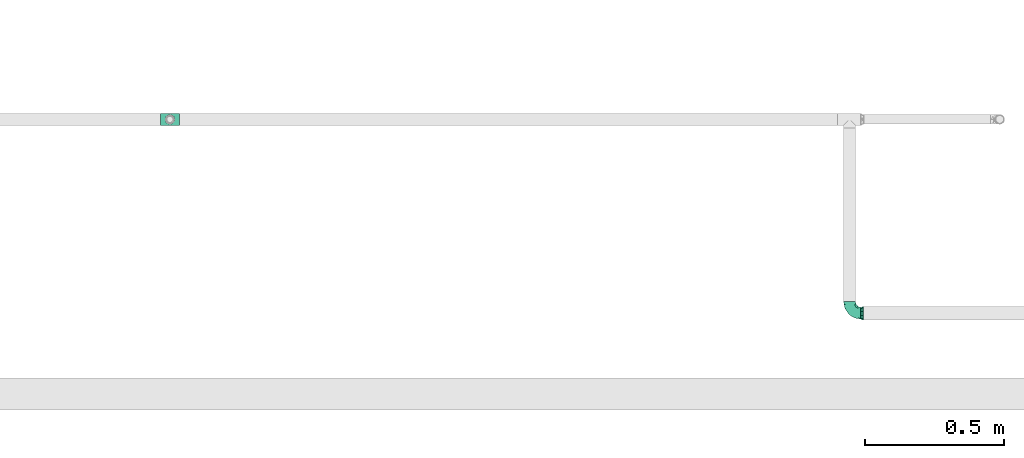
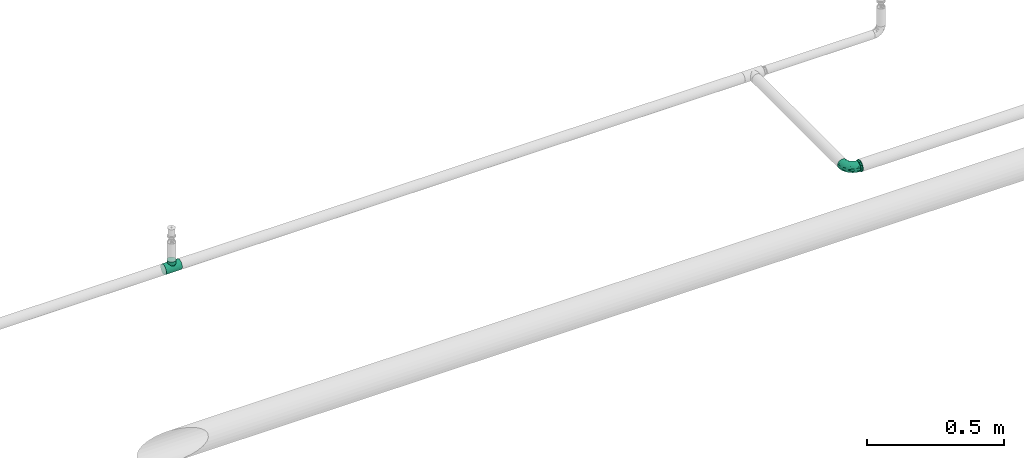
# One storey, part 31 of 94: 3 flow fittings.
"""IFC2X3 building model written with IfcOpenShell, lengths in millimetres."""

from ifc_helpers import new_model, entity, si_unit, converted_unit, derived_unit, direction, frame, origin_with_axes, place, context, subcontext, project, spatial, open_shell, surface_model, source, transform, mapped, type_object, element, save


model = new_model("IFC2X3")

# Units and contexts
model_context = context("Model", 3, precision=0.01, world=frame((0.0, 4.29681676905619e-09, 0.0)), true_north=direction((4.01073788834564e-13, 1.0)))
plan_context = context("Plan", 3, precision=0.01, world=frame((0.0, 4.29681676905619e-09, 0.0)), true_north=direction((4.01073788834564e-13, 1.0)))
body_context = subcontext(model_context, "Body", "Model", "MODEL_VIEW")
ifc_project = project(units=[converted_unit("PLANEANGLEUNIT", "DEGREE", entity("IfcPositiveLengthMeasure", 0.0174532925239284), si_unit("PLANEANGLEUNIT", "RADIAN"), dimensions=[0, 0, 0, 0, 0, 0, 0]), si_unit("AREAUNIT", "SQUARE_METRE"), si_unit("LENGTHUNIT", "METRE", prefix="MILLI"), si_unit("MASSUNIT", "GRAM", prefix="KILO"), si_unit("POWERUNIT", "WATT"), si_unit("PRESSUREUNIT", "PASCAL"), si_unit("FORCEUNIT", "NEWTON", prefix="KILO"), si_unit("ELECTRICCURRENTUNIT", "AMPERE"), si_unit("THERMODYNAMICTEMPERATUREUNIT", "DEGREE_CELSIUS"), si_unit("TIMEUNIT", "SECOND"), si_unit("VOLUMEUNIT", "CUBIC_METRE"), derived_unit("LINEARVELOCITYUNIT", [(si_unit("LENGTHUNIT", "METRE"), 1), (si_unit("TIMEUNIT", "SECOND"), -1)]), derived_unit("VOLUMETRICFLOWRATEUNIT", [(si_unit("VOLUMEUNIT", "CUBIC_METRE"), 1), (si_unit("TIMEUNIT", "SECOND"), -1)]), derived_unit("THERMALTRANSMITTANCEUNIT", [(si_unit("POWERUNIT", "WATT"), 1), (si_unit("THERMODYNAMICTEMPERATUREUNIT", "KELVIN"), -1), (si_unit("AREAUNIT", "SQUARE_METRE"), -1)])], contexts=[model_context, plan_context])

# Site, building, storey
site_placement = place(None, frame((0.0, -4.29681676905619e-09, 0.0), z_axis=(0.0, 0.0, 1.0), x_axis=(1.0, 0.0, 0.0)))
site = spatial("IfcSite", under=ifc_project, at=site_placement, CompositionType="ELEMENT")
building_placement = place(site_placement, frame((0.0, 4.29681676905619e-09, 0.0), z_axis=(0.0, 0.0, 1.0), x_axis=(1.0, 0.0, 0.0)))
building = spatial("IfcBuilding", under=site, at=building_placement, Name="mc-building", CompositionType="ELEMENT")
storey_placement = place(building_placement, frame((0.0, 0.0, 200300.0), z_axis=(0.0, 0.0, 1.0), x_axis=(1.0, 0.0, 0.0)))
storey = spatial("IfcBuildingStorey", under=building, at=storey_placement, Name="Nivå C", CompositionType="ELEMENT", Elevation=200300.0)

# Flow fittings
pipe_fitting_type_1 = type_object("IfcPipeFittingType", Name="magi_pipe_fe_elbow_short_001", PredefinedType="BEND")
shared_shape_1 = source(origin_with_axes(), body_context, "Body", "SurfaceModel", [
    surface_model("IfcShellBasedSurfaceModel", [(-42.4, 10.6, -18.35974), (-42.4, 5.48696, -20.47763), (-42.4, 0.0, -21.2), (-42.4, 14.99066, -14.99066), (-42.4, 20.47763, -5.48696), (-42.4, 18.35974, -10.6), (-42.4, -14.99066, 14.99066), (-42.4, -21.2, 0.0), (-42.4, -10.6, -18.35974), (-42.4, -14.99066, -14.99066), (-42.4, -5.48696, -20.47763), (-42.4, -18.35974, -10.6), (-42.4, -20.47763, -5.48696), (-42.4, 10.6, 18.35974), (-42.4, 20.47763, 5.48696), (-42.4, 18.35974, 10.6), (-42.4, 14.99066, 14.99066), (-42.4, 5.48696, 20.47763), (-42.4, 0.0, 21.2), (-42.4, -20.47763, 5.48696), (-42.4, -18.35974, 10.6), (-42.4, -10.6, 18.35974), (-42.4, -5.48696, 20.47763), (-42.4, 21.2, 0.0), (0.0, 42.4, -21.2), (-5.48696, 42.4, -20.47763), (-10.6, 42.4, -18.35974), (-14.99066, 42.4, -14.99066), (-18.35974, 42.4, -10.6), (-20.47763, 42.4, -5.48696), (21.2, 42.4, 0.0), (5.48696, 42.4, -20.47763), (14.99066, 42.4, -14.99066), (10.6, 42.4, -18.35974), (18.35974, 42.4, -10.6), (20.47763, 42.4, -5.48696), (14.99066, 42.4, 14.99066), (-20.47763, 42.4, 5.48696), (-10.6, 42.4, 18.35974), (-14.99066, 42.4, 14.99066), (-18.35974, 42.4, 10.6), (-5.48696, 42.4, 20.47763), (0.0, 42.4, 21.2), (18.35974, 42.4, 10.6), (20.47763, 42.4, 5.48696), (5.48696, 42.4, 20.47763), (10.6, 42.4, 18.35974), (-21.2, 42.4, 0.0), (-31.10239, -16.47009, 11.90111), (-27.83957, -12.231, 15.79732), (-30.23067, -18.77937, 0.0), (-18.74048, -13.50096, 10.69998), (-28.17586, -18.50359, 6.61185), (18.50359, 28.17586, 6.61185), (14.95929, 16.60735, 5.43468), (16.35874, 18.06133, 0.0), (-20.72313, 33.83635, 9.21426), (-17.70981, 33.00599, 13.92769), (-31.16033, -8.01664, 19.07348), (-32.38682, -2.80842, 20.83743), (-29.68688, 3.24967, 21.16387), (-7.74467, -9.46536, 0.0), (-16.60735, -14.95929, 5.43468), (-18.06133, -16.35874, 0.0), (-16.37932, -5.14532, 17.61254), (-21.10659, -0.19025, 20.54817), (-1.82445, -3.58377, 9.55223), (-0.35533, 0.43745, 12.66367), (-7.20655, -5.07682, 13.06146), (-33.14056, 17.6728, 13.91288), (-7.36799, 20.84806, 21.16196), (-15.70315, 15.70315, 20.68489), (-12.62356, 9.26422, 21.0908), (-36.67879, 12.83836, 17.27427), (-7.91358, 36.5686, 19.85759), (-2.90555, 31.71221, 21.14793), (-33.84689, 20.71971, 9.21285), (-33.51649, 22.58113, 4.66115), (-26.3226, 26.3226, 7.92474), (-32.67995, 8.31454, 20.02643), (-5.53379, 14.19921, 20.81623), (-10.53385, 3.88918, 19.79653), (-2.16577, 11.45378, 19.48254), (-3.78693, 3.78693, 17.3328), (12.231, 27.83957, 15.79732), (13.50096, 18.74047, 10.69998), (16.47009, 31.10239, 11.90111), (-22.53806, 14.38475, 19.60876), (-23.29615, 9.08095, 20.82061), (2.80842, 32.38682, 20.83743), (8.01664, 31.16033, 19.07348), (5.14532, 16.37932, 17.61254), (18.77937, 30.23067, 0.0), (-20.80278, 5.19491, 21.19095), (-19.62579, 22.38752, 17.42006), (-29.19336, 14.39093, 17.85259), (-22.31569, 34.20044, 4.54807), (-26.56962, 27.80621, 3.73106), (9.67657, 17.17133, 14.49993), (-24.04026, 31.8, 0.0), (-9.16861, 28.72652, 20.19004), (-12.09761, 21.9456, 20.37969), (-15.36991, 27.40112, 17.818), (-16.88976, 20.52477, 19.2896), (-12.95169, 35.54896, 17.36222), (-17.17133, -9.67657, 14.49993), (-21.98655, 28.10245, 11.99898), (-22.34699, 23.67592, 15.01692), (-27.22822, 22.77969, 11.82161), (0.19025, 21.10658, 20.54817), (4.8276, 7.36347, 13.42842), (-10.06209, -9.46364, 9.95114), (1.25876, -2.7536, 5.73797), (6.43781, 3.77591, 7.40371), (6.57528, 2.20066, 3.17705), (10.91934, 8.84313, 5.00748), (10.64415, 10.99764, 8.89767), (-31.8, 24.04026, 0.0), (-5.71381, -8.43063, 6.15529), (2.57199, -2.57199, 0.0), (9.46536, 7.74467, 0.0), (-17.17133, -9.67657, -14.49993), (-27.83957, -12.231, -15.79732), (-16.37932, -5.14532, -17.61254), (-18.74048, -13.50096, -10.69998), (-33.00599, 17.70981, -13.92769), (-35.54896, 12.95169, -17.36222), (-34.20044, 22.31569, -4.54807), (-28.17586, -18.50359, -6.61185), (-26.3226, 26.3226, -7.92474), (-33.83635, 20.72313, -9.21426), (-16.60735, -14.95929, -5.43468), (-20.52477, 16.88976, -19.2896), (-21.9456, 12.0976, -20.37969), (-27.40112, 15.36991, -17.818), (-12.83836, 36.67879, -17.27427), (-17.6728, 33.14056, -13.91288), (8.01664, 31.16033, -19.07348), (5.14532, 16.37932, -17.61254), (0.19025, 21.10658, -20.54817), (-36.5686, 7.91358, -19.85759), (-31.10239, -16.47009, -11.90111), (-31.16033, -8.01664, -19.07348), (-14.38475, 22.53806, -19.60876), (-8.31454, 32.67995, -20.02643), (-9.08095, 23.29615, -20.82061), (-32.38682, -2.80842, -20.83743), (-20.84806, 7.36799, -21.16196), (-15.70315, 15.70314, -20.68489), (-9.26422, 12.62356, -21.0908), (-31.71221, 2.90555, -21.14793), (-22.58113, 33.51649, -4.66115), (-20.71971, 33.84689, -9.21285), (-28.72652, 9.16861, -20.19004), (-27.80621, 26.56962, -3.73106), (-5.19491, 20.80278, -21.19095), (-22.38752, 19.62579, -17.42006), (-14.39093, 29.19336, -17.85259), (2.80842, 32.38682, -20.83743), (-3.24967, 29.68688, -21.16387), (16.47009, 31.10239, -11.90111), (12.231, 27.83957, -15.79732), (6.57528, 2.20067, -3.17705), (10.91934, 8.84313, -5.00749), (-14.19921, 5.53379, -20.81623), (-3.88918, 10.53385, -19.79653), (-11.45378, 2.16577, -19.48254), (1.25876, -2.7536, -5.73797), (-5.71381, -8.43063, -6.15529), (-1.82445, -3.58377, -9.55223), (13.50096, 18.74048, -10.69998), (18.50359, 28.17586, -6.61185), (14.95929, 16.60735, -5.43468), (-28.10245, 21.98655, -11.99898), (9.67657, 17.17133, -14.49993), (10.64415, 10.99764, -8.89767), (4.8276, 7.36347, -13.42842), (-23.67592, 22.34699, -15.01692), (-22.77969, 27.22822, -11.82161), (-21.10658, -0.19025, -20.54817), (-3.78693, 3.78693, -17.3328), (-7.20655, -5.07682, -13.06146), (-10.06209, -9.46364, -9.95113), (-0.35533, 0.43745, -12.66367), (6.43781, 3.77591, -7.40371)], [open_shell([[[0, 1, 2]], [[3, 0, 2]], [[4, 5, 3]], [[2, 4, 3]], [[6, 2, 7]], [[8, 9, 10]], [[11, 10, 9]], [[12, 7, 11]], [[2, 10, 11]], [[11, 7, 2]], [[6, 4, 2]], [[13, 14, 4]], [[15, 14, 16]], [[4, 6, 13]], [[16, 14, 13]], [[17, 13, 18]], [[19, 20, 7]], [[7, 20, 6]], [[21, 22, 6]], [[18, 6, 22]], [[6, 18, 13]], [[23, 4, 14]], [[24, 25, 26]], [[24, 26, 27]], [[27, 28, 29]], [[27, 29, 24]], [[24, 29, 30]], [[31, 32, 33]], [[31, 24, 32]], [[34, 30, 35]], [[32, 24, 34]], [[24, 30, 34]], [[29, 36, 30]], [[29, 37, 38]], [[39, 37, 40]], [[36, 29, 38]], [[38, 37, 39]], [[41, 42, 38]], [[30, 43, 44]], [[36, 43, 30]], [[36, 45, 46]], [[45, 36, 42]], [[38, 42, 36]], [[37, 29, 47]], [[6, 48, 49]], [[19, 7, 50]], [[51, 48, 52]], [[53, 54, 55]], [[48, 6, 20]], [[19, 52, 20]], [[40, 56, 57]], [[49, 21, 6]], [[49, 58, 21]], [[18, 59, 60]], [[61, 62, 63]], [[58, 64, 65]], [[66, 67, 68]], [[15, 16, 69]], [[70, 71, 72]], [[13, 73, 16]], [[22, 59, 18]], [[41, 74, 75]], [[18, 60, 17]], [[15, 69, 76]], [[16, 73, 69]], [[23, 14, 77]], [[14, 15, 76]], [[77, 76, 78]], [[17, 79, 13]], [[80, 81, 82]], [[68, 83, 64]], [[84, 36, 46]], [[85, 86, 84]], [[87, 79, 88]], [[21, 58, 22]], [[42, 89, 45]], [[53, 44, 43]], [[42, 41, 75]], [[84, 90, 91]], [[43, 86, 53]], [[92, 44, 53]], [[86, 43, 36]], [[90, 46, 45]], [[53, 55, 92]], [[88, 93, 72]], [[54, 53, 85]], [[87, 94, 95]], [[78, 96, 97]], [[98, 84, 91]], [[99, 96, 47]], [[79, 17, 60]], [[96, 78, 56]], [[62, 52, 63]], [[57, 39, 40]], [[100, 70, 75]], [[101, 102, 103]], [[19, 50, 52]], [[104, 38, 39]], [[74, 41, 38]], [[57, 102, 104]], [[105, 64, 49]], [[90, 84, 46]], [[40, 37, 56]], [[56, 106, 57]], [[102, 57, 107]], [[95, 107, 69]], [[76, 108, 78]], [[100, 101, 70]], [[89, 75, 109]], [[64, 58, 49]], [[63, 52, 50]], [[59, 58, 65]], [[105, 49, 51]], [[64, 83, 81]], [[89, 90, 45]], [[30, 44, 92]], [[109, 82, 91]], [[109, 91, 90]], [[91, 83, 110]], [[111, 68, 105]], [[66, 68, 111]], [[62, 51, 52]], [[66, 112, 113]], [[114, 115, 113]], [[98, 85, 84]], [[52, 48, 20]], [[49, 48, 51]], [[84, 86, 36]], [[53, 86, 85]], [[88, 79, 60]], [[73, 79, 95]], [[96, 56, 37]], [[78, 108, 106]], [[87, 103, 94]], [[100, 74, 104]], [[108, 69, 107]], [[78, 97, 77]], [[88, 72, 71]], [[109, 75, 70]], [[81, 72, 65]], [[70, 72, 80]], [[75, 89, 42]], [[90, 89, 109]], [[58, 59, 22]], [[60, 59, 65]], [[67, 83, 68]], [[110, 113, 116]], [[88, 60, 93]], [[87, 88, 71]], [[103, 87, 71]], [[79, 87, 95]], [[101, 103, 71]], [[94, 103, 102]], [[47, 96, 37]], [[96, 99, 97]], [[99, 117, 97]], [[97, 117, 77]], [[23, 77, 117]], [[14, 76, 77]], [[60, 65, 93]], [[65, 72, 93]], [[70, 101, 71]], [[102, 101, 100]], [[69, 108, 76]], [[106, 108, 107]], [[57, 106, 107]], [[78, 106, 56]], [[57, 104, 39]], [[100, 104, 102]], [[102, 107, 94]], [[95, 94, 107]], [[64, 81, 65]], [[82, 81, 83]], [[91, 82, 83]], [[80, 82, 109]], [[70, 80, 109]], [[81, 80, 72]], [[79, 73, 13]], [[69, 73, 95]], [[104, 74, 38]], [[75, 74, 100]], [[62, 61, 118]], [[111, 62, 118]], [[113, 115, 116]], [[119, 118, 61]], [[111, 105, 51]], [[113, 112, 114]], [[120, 55, 54]], [[68, 64, 105]], [[91, 110, 98]], [[116, 98, 110]], [[62, 111, 51]], [[66, 111, 118]], [[112, 66, 118]], [[67, 113, 110]], [[118, 119, 112]], [[114, 112, 119]], [[119, 120, 114]], [[115, 120, 54]], [[120, 115, 114]], [[116, 54, 85]], [[54, 116, 115]], [[116, 85, 98]], [[113, 67, 66]], [[83, 67, 110]], [[121, 122, 123]], [[122, 121, 124]], [[5, 125, 3]], [[3, 126, 0]], [[117, 127, 23]], [[50, 12, 128]], [[127, 129, 130]], [[128, 131, 63]], [[132, 133, 134]], [[27, 135, 136]], [[137, 138, 139]], [[0, 140, 1]], [[128, 11, 141]], [[142, 8, 10]], [[128, 63, 50]], [[5, 4, 130]], [[11, 9, 141]], [[143, 144, 145]], [[146, 10, 2]], [[147, 148, 149]], [[11, 128, 12]], [[124, 141, 122]], [[150, 2, 1]], [[151, 152, 129]], [[125, 134, 126]], [[153, 147, 150]], [[127, 154, 129]], [[145, 155, 149]], [[47, 29, 151]], [[143, 156, 157]], [[152, 29, 28]], [[24, 158, 159]], [[122, 9, 8]], [[27, 26, 135]], [[144, 26, 25]], [[32, 160, 161]], [[24, 31, 158]], [[120, 162, 163]], [[130, 125, 5]], [[27, 136, 28]], [[1, 140, 150]], [[33, 161, 137]], [[142, 122, 8]], [[24, 159, 25]], [[164, 165, 166]], [[167, 168, 169]], [[34, 160, 32]], [[161, 33, 32]], [[170, 160, 171]], [[131, 128, 124]], [[30, 92, 35]], [[35, 92, 171]], [[172, 171, 55]], [[35, 171, 34]], [[144, 25, 159]], [[130, 173, 125]], [[174, 175, 176]], [[136, 152, 28]], [[33, 137, 31]], [[122, 142, 123]], [[134, 125, 177]], [[157, 177, 136]], [[152, 178, 129]], [[153, 133, 147]], [[146, 150, 179]], [[146, 142, 10]], [[7, 12, 50]], [[179, 166, 123]], [[179, 123, 142]], [[123, 180, 181]], [[138, 137, 161]], [[55, 171, 92]], [[158, 137, 139]], [[174, 161, 170]], [[138, 180, 165]], [[180, 138, 176]], [[124, 121, 182]], [[176, 183, 180]], [[61, 131, 168]], [[169, 168, 182]], [[172, 170, 171]], [[122, 141, 9]], [[128, 141, 124]], [[171, 160, 34]], [[161, 160, 170]], [[145, 144, 159]], [[135, 144, 157]], [[127, 130, 4]], [[129, 178, 173]], [[143, 132, 156]], [[153, 140, 126]], [[178, 136, 177]], [[129, 154, 151]], [[145, 149, 148]], [[179, 150, 147]], [[165, 149, 139]], [[147, 149, 164]], [[150, 146, 2]], [[142, 146, 179]], [[137, 158, 31]], [[159, 158, 139]], [[174, 138, 161]], [[184, 169, 183]], [[145, 159, 155]], [[143, 145, 148]], [[132, 143, 148]], [[144, 143, 157]], [[133, 132, 148]], [[156, 132, 134]], [[23, 127, 4]], [[127, 117, 154]], [[117, 99, 154]], [[154, 99, 151]], [[47, 151, 99]], [[29, 152, 151]], [[159, 139, 155]], [[139, 149, 155]], [[147, 133, 148]], [[134, 133, 153]], [[136, 178, 152]], [[173, 178, 177]], [[125, 173, 177]], [[129, 173, 130]], [[125, 126, 3]], [[153, 126, 134]], [[134, 177, 156]], [[157, 156, 177]], [[138, 165, 139]], [[166, 165, 180]], [[123, 166, 180]], [[164, 166, 179]], [[147, 164, 179]], [[165, 164, 149]], [[144, 135, 26]], [[136, 135, 157]], [[126, 140, 0]], [[150, 140, 153]], [[182, 131, 124]], [[168, 119, 61]], [[119, 167, 162]], [[63, 131, 61]], [[172, 163, 175]], [[172, 55, 120]], [[123, 181, 121]], [[182, 121, 181]], [[175, 174, 170]], [[176, 138, 174]], [[169, 182, 181]], [[131, 182, 168]], [[183, 169, 181]], [[167, 169, 184]], [[162, 167, 184]], [[119, 168, 167]], [[163, 162, 184]], [[120, 119, 162]], [[175, 163, 184]], [[120, 163, 172]], [[176, 175, 184]], [[172, 175, 170]], [[180, 183, 181]], [[184, 183, 176]]])]),
])
flow_fitting_1_placement = place(storey_placement, frame((529961.18385, 406303.74497, 2850.0), z_axis=(0.0, 0.0, 1.0), x_axis=(0.0, -1.0, 0.0)))
element("IfcFlowFitting", 1, at=flow_fitting_1_placement, inside=storey, type_object=pipe_fitting_type_1, Name="magi_pipe_fe_elbow_short_001", context=body_context, shape_type="MappedRepresentation", body=[
    mapped(shared_shape_1, transform((0.0, 0.0, 0.0), scale=1.0)),
])
pipe_fitting_type_2 = type_object("IfcPipeFittingType", Name="magi_pipe_fe_reducer_centric_short_NOR", PredefinedType="TRANSITION")
shared_shape_2 = source(origin_with_axes(), body_context, "Body", "SurfaceModel", [
    surface_model("IfcShellBasedSurfaceModel", [(-2.0, -10.6, -18.35974), (-2.0, 0.0, -21.2), (-2.0, -5.48696, -20.47763), (-2.0, 5.48696, -20.47763), (-2.0, 10.6, -18.35974), (-2.0, 0.0, 21.2), (-2.0, 5.48696, 20.47763), (-2.0, 10.6, 18.35974), (-2.0, 14.99066, 14.99066), (-2.0, 18.35974, 10.6), (-2.0, 20.47763, 5.48696), (-2.0, -21.2, 0.0), (-2.0, -14.99066, -14.99066), (-2.0, -5.48696, 20.47763), (-2.0, -14.99066, 14.99066), (-2.0, -10.6, 18.35974), (-2.0, -18.35974, 10.6), (-2.0, -20.47763, 5.48696), (-2.0, 20.47763, -5.48696), (-2.0, 14.99066, -14.99066), (-2.0, 18.35974, -10.6), (-2.0, -18.35974, -10.6), (-2.0, -20.47763, -5.48696), (-2.0, 21.2, 0.0), (0.0, 10.6, -18.35974), (0.0, 0.0, -21.2), (0.0, 5.48696, -20.47763), (0.0, 20.47763, -5.48696), (0.0, 14.99066, -14.99066), (0.0, -21.2, 0.0), (0.0, -14.99066, -14.99066), (0.0, 18.35974, -10.6), (0.0, -10.6, -18.35974), (0.0, -5.48696, -20.47763), (0.0, -18.35974, -10.6), (0.0, -20.47763, -5.48696), (0.0, -18.35974, 10.6), (0.0, 21.2, 0.0), (0.0, 20.47763, 5.48696), (0.0, 18.35974, 10.6), (0.0, 14.99066, 14.99066), (0.0, 0.0, 21.2), (0.0, 10.6, 18.35974), (0.0, 5.48696, 20.47763), (0.0, -14.99066, 14.99066), (0.0, -20.47763, 5.48696), (0.0, -5.48696, 20.47763), (0.0, -10.6, 18.35974), (8.0, 24.2, 0.0), (8.0, 6.26342, -23.37541), (8.0, 12.1, -20.95781), (8.0, 23.37541, -6.26342), (8.0, 17.11198, -17.11198), (8.0, 20.95781, -12.1), (8.0, -24.2, 0.0), (8.0, -12.1, -20.95781), (8.0, -6.26342, -23.37541), (8.0, 0.0, -24.2), (8.0, -17.11198, -17.11198), (8.0, -23.37541, -6.26342), (8.0, -20.95781, -12.1), (8.0, 20.95781, 12.1), (8.0, 17.11198, 17.11198), (8.0, 12.1, 20.95781), (8.0, 6.26342, 23.37541), (8.0, 0.0, 24.2), (8.0, -23.37541, 6.26342), (8.0, -17.11198, 17.11198), (8.0, -20.95781, 12.1), (8.0, -6.26342, 23.37541), (8.0, -12.1, 20.95781), (8.0, 23.37541, 6.26342), (6.0, 0.0, 24.2), (6.0, 6.26342, 23.37541), (6.0, 12.1, 20.95781), (6.0, 17.11198, 17.11198), (6.0, 6.26342, -23.37541), (6.0, 20.95781, 12.1), (6.0, -23.37541, 6.26342), (6.0, -17.11198, -17.11198), (6.0, -6.26342, 23.37541), (6.0, -17.11198, 17.11198), (6.0, -12.1, 20.95781), (6.0, -20.95781, 12.1), (6.0, -24.2, 0.0), (6.0, 23.37541, 6.26342), (6.0, 24.2, 0.0), (6.0, 23.37541, -6.26342), (6.0, 17.11198, -17.11198), (6.0, 20.95781, -12.1), (6.0, 12.1, -20.95781), (6.0, -23.37541, -6.26342), (6.0, -20.95781, -12.1), (6.0, -6.26342, -23.37541), (6.0, -12.1, -20.95781), (6.0, 0.0, -24.2), (6.0, 7.47821, 23.01557), (6.0, -7.47821, 23.01557), (6.0, 19.57821, 14.2244), (6.0, 19.57821, -14.2244), (6.0, -19.57821, 14.2244), (6.0, -19.57821, -14.2244), (6.0, 7.47821, -23.01557), (6.0, -7.47821, -23.01557), (0.0, -6.55116, 20.1624), (0.0, 6.55116, 20.1624), (0.0, -17.15116, 12.46105), (0.0, -17.15116, -12.46105), (0.0, 17.15116, 12.46105), (0.0, 17.15116, -12.46105), (0.0, -6.55116, -20.1624), (0.0, 6.55116, -20.1624), (6.0, -21.8891, -7.1122), (0.0, -19.17558, -6.23052), (0.0, -11.85116, -16.31172), (6.0, -13.52821, -18.61999), (6.0, 0.0, -23.01557), (0.0, 0.0, -20.1624), (0.0, 18.43768, -8.50153), (0.0, 19.72421, -4.54202), (6.0, 21.8891, -7.1122), (6.0, 13.52821, -18.61999), (0.0, 11.85116, -16.31172), (6.0, 21.8891, 7.1122), (0.0, 19.17558, 6.23052), (0.0, 11.85116, 16.31172), (6.0, 13.52821, 18.61999), (6.0, 0.0, 23.01557), (0.0, 0.0, 20.1624), (0.0, -18.43768, 8.50153), (0.0, -19.72421, 4.54202), (6.0, -21.8891, 7.1122), (6.0, -13.52821, 18.61999), (0.0, -11.85116, 16.31172)], [open_shell([[[0, 1, 2]], [[3, 1, 4]], [[5, 6, 7]], [[5, 7, 8]], [[8, 9, 10]], [[8, 10, 5]], [[11, 5, 12]], [[13, 14, 15]], [[13, 5, 14]], [[16, 11, 17]], [[14, 5, 16]], [[5, 11, 16]], [[5, 10, 12]], [[10, 18, 4]], [[19, 18, 20]], [[12, 10, 4]], [[4, 18, 19]], [[11, 21, 22]], [[12, 21, 11]], [[0, 12, 4]], [[1, 0, 4]], [[18, 10, 23]], [[24, 25, 26]], [[27, 24, 28]], [[29, 30, 24]], [[27, 28, 31]], [[27, 29, 24]], [[25, 32, 33]], [[25, 24, 32]], [[34, 29, 35]], [[32, 24, 30]], [[34, 30, 29]], [[36, 27, 37]], [[38, 39, 40]], [[38, 40, 41]], [[42, 43, 41]], [[42, 41, 40]], [[38, 41, 44]], [[29, 36, 45]], [[27, 36, 29]], [[44, 46, 47]], [[36, 38, 44]], [[41, 46, 44]], [[36, 37, 38]], [[22, 35, 11]], [[21, 34, 22]], [[32, 12, 0]], [[21, 12, 30]], [[33, 0, 2]], [[22, 34, 35]], [[35, 29, 11]], [[33, 32, 0]], [[30, 12, 32]], [[30, 34, 21]], [[25, 33, 2]], [[2, 1, 25]], [[3, 26, 1]], [[4, 24, 3]], [[31, 19, 20]], [[4, 19, 28]], [[27, 20, 18]], [[4, 28, 24]], [[24, 26, 3]], [[37, 27, 18]], [[31, 20, 27]], [[31, 28, 19]], [[23, 37, 18]], [[1, 26, 25]], [[10, 38, 23]], [[9, 39, 10]], [[42, 8, 7]], [[9, 8, 40]], [[43, 7, 6]], [[10, 39, 38]], [[38, 37, 23]], [[43, 42, 7]], [[40, 8, 42]], [[40, 39, 9]], [[41, 43, 6]], [[6, 5, 41]], [[13, 46, 5]], [[15, 47, 13]], [[36, 14, 16]], [[15, 14, 44]], [[45, 16, 17]], [[15, 44, 47]], [[47, 46, 13]], [[29, 45, 17]], [[36, 16, 45]], [[36, 44, 14]], [[11, 29, 17]], [[5, 46, 41]], [[48, 49, 50]], [[51, 50, 52]], [[51, 48, 50]], [[51, 52, 53]], [[49, 54, 55]], [[49, 56, 57]], [[49, 55, 56]], [[58, 59, 60]], [[58, 55, 54]], [[58, 54, 59]], [[49, 48, 61]], [[61, 62, 49]], [[49, 62, 54]], [[63, 64, 65]], [[63, 65, 62]], [[54, 62, 65]], [[66, 67, 68]], [[69, 66, 54]], [[67, 69, 70]], [[69, 67, 66]], [[54, 65, 69]], [[48, 71, 61]], [[72, 73, 74]], [[72, 74, 75]], [[76, 75, 77]], [[78, 72, 79]], [[72, 75, 79]], [[80, 81, 82]], [[80, 72, 81]], [[81, 78, 83]], [[72, 78, 81]], [[78, 79, 84]], [[76, 77, 85]], [[76, 86, 87]], [[88, 87, 89]], [[90, 76, 87]], [[90, 87, 88]], [[76, 79, 75]], [[91, 79, 92]], [[84, 79, 91]], [[76, 93, 94]], [[94, 79, 76]], [[93, 76, 95]], [[85, 86, 76]], [[91, 59, 84]], [[92, 60, 91]], [[55, 79, 94]], [[92, 79, 58]], [[56, 94, 93]], [[91, 60, 59]], [[59, 54, 84]], [[56, 55, 94]], [[58, 79, 55]], [[58, 60, 92]], [[57, 56, 93]], [[93, 95, 57]], [[76, 49, 95]], [[90, 50, 76]], [[53, 88, 89]], [[90, 88, 52]], [[51, 89, 87]], [[90, 52, 50]], [[50, 49, 76]], [[48, 51, 87]], [[53, 89, 51]], [[53, 52, 88]], [[86, 48, 87]], [[95, 49, 57]], [[85, 71, 86]], [[77, 61, 85]], [[63, 75, 74]], [[77, 75, 62]], [[64, 74, 73]], [[85, 61, 71]], [[71, 48, 86]], [[64, 63, 74]], [[62, 75, 63]], [[62, 61, 77]], [[65, 64, 73]], [[73, 72, 65]], [[80, 69, 72]], [[82, 70, 80]], [[68, 81, 83]], [[82, 81, 67]], [[66, 83, 78]], [[82, 67, 70]], [[70, 69, 80]], [[54, 66, 78]], [[68, 83, 66]], [[68, 67, 81]], [[84, 54, 78]], [[72, 69, 65]], [[96, 97, 84]], [[98, 99, 86]], [[96, 99, 98]], [[84, 97, 100]], [[84, 101, 99]], [[101, 102, 99]], [[102, 101, 103]], [[84, 99, 96]], [[104, 105, 37]], [[106, 107, 29]], [[104, 107, 106]], [[37, 105, 108]], [[37, 109, 107]], [[109, 110, 107]], [[110, 109, 111]], [[37, 107, 104]], [[112, 29, 113]], [[113, 107, 101]], [[103, 114, 110]], [[29, 112, 84]], [[113, 101, 112]], [[115, 107, 114]], [[116, 103, 110]], [[117, 102, 116]], [[102, 117, 111]], [[118, 119, 120]], [[107, 115, 101]], [[103, 115, 114]], [[111, 121, 102]], [[122, 99, 121]], [[119, 86, 120]], [[121, 111, 122]], [[119, 37, 86]], [[122, 109, 99]], [[116, 110, 117]], [[118, 99, 109]], [[99, 118, 120]], [[123, 37, 124]], [[124, 108, 98]], [[96, 125, 105]], [[37, 123, 86]], [[124, 98, 123]], [[126, 108, 125]], [[127, 96, 105]], [[128, 97, 127]], [[97, 128, 104]], [[129, 130, 131]], [[108, 126, 98]], [[96, 126, 125]], [[104, 132, 97]], [[133, 100, 132]], [[130, 84, 131]], [[132, 104, 133]], [[130, 29, 84]], [[133, 106, 100]], [[127, 105, 128]], [[129, 100, 106]], [[100, 129, 131]]])]),
])
flow_fitting_2_placement = place(storey_placement, frame((530003.58385, 406303.74497, 2850.0), z_axis=(0.0, 0.0, 1.0), x_axis=(1.0, 0.0, 0.0)))
element("IfcFlowFitting", 2, at=flow_fitting_2_placement, inside=storey, type_object=pipe_fitting_type_2, Name="magi_pipe_fe_reducer_centric_short_NOR", context=body_context, shape_type="MappedRepresentation", body=[
    mapped(shared_shape_2, transform((0.0, 0.0, 0.0), scale=1.0)),
])
pipe_fitting_type_3 = type_object("IfcPipeFittingType", Name="magi_pipe_fe_tee_centric_90_NOR", PredefinedType="JUNCTION")
shared_shape_3 = source(origin_with_axes(), body_context, "Body", "SurfaceModel", [
    surface_model("IfcShellBasedSurfaceModel", [(-33.8, 0.0, -21.2), (-33.8, -5.48696, -20.47763), (-33.8, 5.48696, -20.47763), (-33.8, 10.6, -18.35974), (-33.8, 14.99066, -14.99066), (-33.8, -20.47763, 5.48696), (-33.8, 18.35974, -10.6), (-33.8, 10.6, 18.35974), (-33.8, -14.99066, -14.99066), (-33.8, -18.35974, -10.6), (-33.8, -10.6, -18.35974), (-33.8, -20.47763, -5.48696), (-33.8, -21.2, 0.0), (-33.8, 18.35974, 10.6), (-33.8, 20.47763, -5.48696), (-33.8, 20.47763, 5.48696), (-33.8, 21.2, 0.0), (-33.8, 14.99066, 14.99066), (-33.8, 5.48696, 20.47763), (-33.8, 0.0, 21.2), (-33.8, -18.35974, 10.6), (-33.8, -14.99066, 14.99066), (-33.8, -10.6, 18.35974), (-33.8, -5.48696, 20.47763), (33.8, 5.48696, -20.47763), (33.8, -5.48696, -20.47763), (33.8, 0.0, -21.2), (33.8, 14.99066, -14.99066), (33.8, 10.6, -18.35974), (33.8, 18.35974, -10.6), (33.8, 20.47763, -5.48696), (33.8, -21.2, 0.0), (33.8, -10.6, -18.35974), (33.8, -18.35974, -10.6), (33.8, -14.99066, -14.99066), (33.8, -20.47763, -5.48696), (33.8, -20.47763, 5.48696), (33.8, 21.2, 0.0), (33.8, 20.47763, 5.48696), (33.8, 18.35974, 10.6), (33.8, 10.6, 18.35974), (33.8, 14.99066, 14.99066), (33.8, 0.0, 21.2), (33.8, 5.48696, 20.47763), (33.8, -14.99066, 14.99066), (33.8, -18.35974, 10.6), (33.8, -10.6, 18.35974), (33.8, -5.48696, 20.47763), (16.9, -21.2, 0.0), (15.78624, -20.32327, 6.03364), (12.81343, -18.11115, 11.01935), (8.52479, -15.37862, 14.59239), (3.07939, -13.16482, 16.61708), (-16.9, -21.2, 0.0), (-15.78686, -20.32375, 6.032), (-8.52604, -15.37932, 14.59166), (-3.0848, -13.16609, 16.61608), (-12.81602, -18.11299, 11.01634), (3.07939, -13.16482, -16.61708), (12.81343, -18.11115, -11.01935), (8.52479, -15.37862, -14.59239), (15.78624, -20.32327, -6.03364), (-3.0848, -13.16609, -16.61608), (-8.52604, -15.37932, -14.59166), (-12.81602, -18.11299, -11.01634), (-15.78686, -20.32375, -6.032), (4.37404, -31.8, -16.32415), (-16.9, -31.8, 0.0), (0.0, -31.8, -16.9), (14.63583, -31.8, -8.45), (8.45, -31.8, -14.63583), (16.32415, -31.8, -4.37404), (11.9501, -31.8, -11.9501), (-11.9501, -31.8, -11.9501), (-8.45, -31.8, -14.63583), (-4.37404, -31.8, -16.32415), (-14.63583, -31.8, -8.45), (-16.32415, -31.8, -4.37404), (16.9, -31.8, 0.0), (8.45, -31.8, 14.63583), (16.32415, -31.8, 4.37404), (14.63583, -31.8, 8.45), (-8.45, -31.8, 14.63583), (11.9501, -31.8, 11.9501), (4.37404, -31.8, 16.32415), (-16.32415, -31.8, 4.37404), (-11.9501, -31.8, 11.9501), (-14.63583, -31.8, 8.45), (0.0, -31.8, 16.9), (-4.37404, -31.8, 16.32415), (-16.34343, -20.76188, 3.016), (16.34312, -20.76163, 3.01682), (-0.00271, -13.16546, 16.61658), (16.34312, -20.76163, -3.01682), (-0.00271, -13.16546, -16.61658), (-16.34343, -20.76188, -3.016)], [open_shell([[[0, 1, 2]], [[3, 2, 4]], [[5, 2, 1]], [[4, 2, 6]], [[6, 2, 7]], [[8, 9, 10]], [[1, 10, 9]], [[9, 11, 1]], [[12, 1, 11]], [[5, 1, 12]], [[13, 14, 6]], [[13, 15, 16]], [[6, 7, 13]], [[5, 7, 2]], [[17, 13, 7]], [[18, 7, 19]], [[20, 21, 5]], [[22, 5, 21]], [[23, 19, 22]], [[7, 5, 22]], [[22, 19, 7]], [[16, 14, 13]], [[24, 25, 26]], [[27, 24, 28]], [[29, 30, 24]], [[29, 24, 27]], [[31, 24, 30]], [[32, 33, 34]], [[33, 32, 25]], [[33, 31, 35]], [[31, 33, 25]], [[25, 24, 31]], [[30, 36, 31]], [[37, 38, 39]], [[37, 39, 40]], [[37, 40, 36]], [[40, 39, 41]], [[42, 40, 43]], [[36, 44, 45]], [[44, 36, 46]], [[46, 42, 47]], [[46, 36, 40]], [[40, 42, 46]], [[37, 36, 30]], [[31, 36, 48]], [[49, 48, 36]], [[36, 45, 49]], [[45, 44, 50]], [[51, 50, 44]], [[52, 51, 44]], [[44, 46, 52]], [[45, 50, 49]], [[53, 54, 5]], [[5, 12, 53]], [[54, 20, 5]], [[55, 56, 21]], [[20, 57, 21]], [[57, 20, 54]], [[21, 57, 55]], [[56, 22, 21]], [[52, 22, 56]], [[19, 47, 42]], [[23, 46, 47]], [[18, 42, 43]], [[39, 38, 15]], [[17, 40, 41]], [[13, 41, 39]], [[43, 40, 7]], [[16, 38, 37]], [[22, 46, 23]], [[23, 47, 19]], [[18, 19, 42]], [[43, 7, 18]], [[7, 40, 17]], [[13, 17, 41]], [[15, 13, 39]], [[38, 16, 15]], [[46, 22, 52]], [[6, 30, 29]], [[14, 37, 30]], [[4, 29, 27]], [[26, 25, 1]], [[2, 28, 24]], [[0, 24, 26]], [[27, 28, 3]], [[10, 25, 32]], [[16, 37, 14]], [[14, 30, 6]], [[4, 6, 29]], [[27, 3, 4]], [[3, 28, 2]], [[0, 2, 24]], [[1, 0, 26]], [[25, 10, 1]], [[32, 58, 10]], [[34, 59, 60]], [[59, 34, 33]], [[60, 58, 34]], [[34, 58, 32]], [[35, 31, 48]], [[35, 61, 33]], [[61, 35, 48]], [[33, 61, 59]], [[62, 63, 8]], [[8, 64, 9]], [[64, 8, 63]], [[62, 8, 10]], [[65, 53, 11]], [[65, 11, 9]], [[11, 53, 12]], [[65, 9, 64]], [[58, 62, 10]], [[66, 67, 68]], [[69, 66, 70]], [[69, 71, 66]], [[69, 70, 72]], [[67, 66, 71]], [[68, 73, 74]], [[74, 75, 68]], [[76, 67, 77]], [[73, 68, 76]], [[67, 76, 68]], [[71, 78, 67]], [[79, 78, 80]], [[79, 80, 81]], [[82, 67, 79]], [[79, 81, 83]], [[82, 79, 84]], [[85, 86, 87]], [[86, 85, 82]], [[82, 88, 89]], [[85, 67, 82]], [[84, 88, 82]], [[79, 67, 78]], [[85, 90, 67]], [[57, 87, 86]], [[85, 87, 54]], [[86, 82, 55]], [[85, 54, 90]], [[90, 53, 67]], [[54, 87, 57]], [[91, 49, 80]], [[55, 89, 56]], [[55, 57, 86]], [[88, 52, 92]], [[55, 82, 89]], [[52, 88, 84]], [[79, 51, 84]], [[50, 83, 81]], [[83, 51, 79]], [[81, 80, 49]], [[83, 50, 51]], [[51, 52, 84]], [[78, 91, 80]], [[49, 50, 81]], [[91, 78, 48]], [[88, 56, 89]], [[92, 56, 88]], [[71, 93, 78]], [[59, 69, 72]], [[71, 69, 61]], [[72, 70, 60]], [[93, 48, 78]], [[61, 69, 59]], [[60, 66, 58]], [[60, 59, 72]], [[68, 62, 94]], [[60, 70, 66]], [[95, 67, 53]], [[95, 65, 77]], [[71, 61, 93]], [[75, 62, 68]], [[65, 76, 77]], [[73, 76, 64]], [[68, 58, 66]], [[75, 63, 62]], [[63, 75, 74]], [[74, 73, 63]], [[63, 73, 64]], [[64, 76, 65]], [[67, 95, 77]], [[94, 58, 68]]])]),
])
flow_fitting_3_placement = place(storey_placement, frame((527508.72873, 407003.74497, 2850.0), z_axis=(0.0, -1.0, 0.0), x_axis=(-1.0, 0.0, 0.0)))
element("IfcFlowFitting", 3, at=flow_fitting_3_placement, inside=storey, type_object=pipe_fitting_type_3, Name="magi_pipe_fe_tee_centric_90_NOR", context=body_context, shape_type="MappedRepresentation", body=[
    mapped(shared_shape_3, transform((0.0, 0.0, 0.0), scale=1.0)),
])

save(model, "model.ifc")
